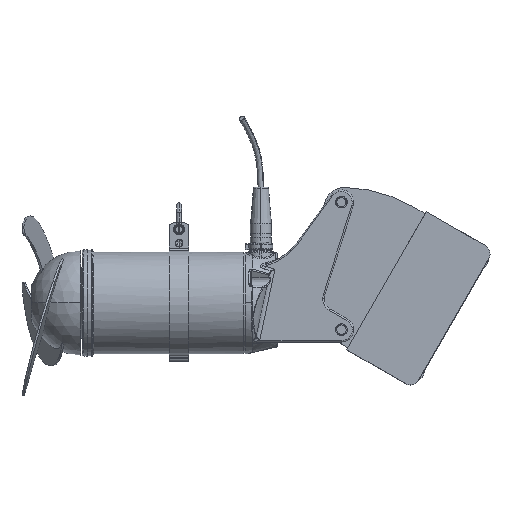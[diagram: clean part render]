
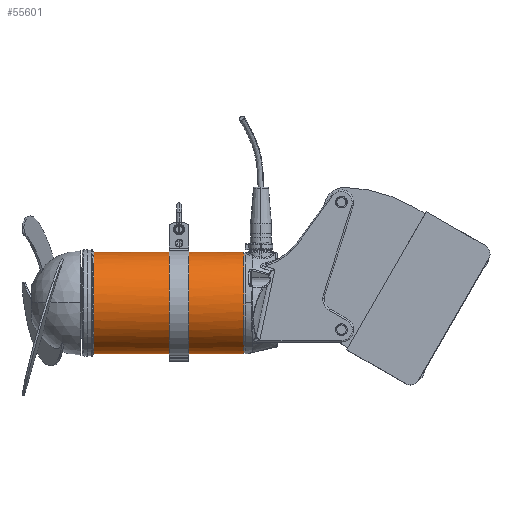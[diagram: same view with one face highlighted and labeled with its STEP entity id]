
A CAD part, top view. The second image highlights one B-rep face of the part: STEP entity #55601.
In plain terms, the highlighted cylindrical face has radius 103.811 mm (diameter 207.621 mm), a partial arc.
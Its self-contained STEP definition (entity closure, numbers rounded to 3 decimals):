
#352 = EDGE_CURVE ( 'NONE', #13994, #51848, #18313, .T. ) ;
#1465 = EDGE_CURVE ( 'NONE', #20984, #51848, #32453, .T. ) ;
#3731 = ORIENTED_EDGE ( 'NONE', *, *, #352, .T. ) ;
#3965 = CARTESIAN_POINT ( 'NONE',  ( 153.043, -102.743, 14.847 ) ) ;
#5216 = EDGE_LOOP ( 'NONE', ( #52769, #5641, #16099, #21042 ) ) ;
#5449 = VECTOR ( 'NONE', #10414, 1000. ) ;
#5641 = ORIENTED_EDGE ( 'NONE', *, *, #51810, .T. ) ;
#6004 = CARTESIAN_POINT ( 'NONE',  ( -0.757, -103.811, 0. ) ) ;
#9189 = CIRCLE ( 'NONE', #10630, 103.811 ) ;
#9437 = CIRCLE ( 'NONE', #23037, 103.811 ) ;
#9604 = CARTESIAN_POINT ( 'NONE',  ( 193.043, 0., 0. ) ) ;
#10414 = DIRECTION ( 'NONE',  ( -1., 0., 0. ) ) ;
#10630 = AXIS2_PLACEMENT_3D ( 'NONE', #18959, #49425, #23299 ) ;
#10656 = CARTESIAN_POINT ( 'NONE',  ( 193.043, 103.543, 7.445 ) ) ;
#13877 = DIRECTION ( 'NONE',  ( 0., 0., -1. ) ) ;
#13994 = VERTEX_POINT ( 'NONE', #32807 ) ;
#14392 = CARTESIAN_POINT ( 'NONE',  ( 21.609, -103.811, 0. ) ) ;
#16032 = VECTOR ( 'NONE', #40477, 1000. ) ;
#16099 = ORIENTED_EDGE ( 'NONE', *, *, #53473, .F. ) ;
#16620 = CARTESIAN_POINT ( 'NONE',  ( 21.609, 0., 0. ) ) ;
#16689 = FACE_OUTER_BOUND ( 'NONE', #38545, .T. ) ;
#16839 = CARTESIAN_POINT ( 'NONE',  ( 153.043, 103.543, 7.445 ) ) ;
#16979 = VERTEX_POINT ( 'NONE', #16839 ) ;
#18146 = LINE ( 'NONE', #40229, #5449 ) ;
#18313 = CIRCLE ( 'NONE', #37706, 103.81 ) ;
#18410 = VERTEX_POINT ( 'NONE', #6004 ) ;
#18436 = VERTEX_POINT ( 'NONE', #10656 ) ;
#18488 = VERTEX_POINT ( 'NONE', #27899 ) ;
#18608 = DIRECTION ( 'NONE',  ( -1., 0., 0. ) ) ;
#18959 = CARTESIAN_POINT ( 'NONE',  ( 153.043, 0., 0. ) ) ;
#20984 = VERTEX_POINT ( 'NONE', #36822 ) ;
#21042 = ORIENTED_EDGE ( 'NONE', *, *, #54226, .T. ) ;
#21435 = CYLINDRICAL_SURFACE ( 'NONE', #50102, 103.811 ) ;
#23037 = AXIS2_PLACEMENT_3D ( 'NONE', #44740, #18608, #49052 ) ;
#23299 = DIRECTION ( 'NONE',  ( 0., 0., -1. ) ) ;
#27899 = CARTESIAN_POINT ( 'NONE',  ( 193.043, -102.743, 14.847 ) ) ;
#29147 = ORIENTED_EDGE ( 'NONE', *, *, #1465, .F. ) ;
#32016 = VECTOR ( 'NONE', #54432, 1000. ) ;
#32453 = LINE ( 'NONE', #51636, #32016 ) ;
#32807 = CARTESIAN_POINT ( 'NONE',  ( 304.543, -103.81, 0. ) ) ;
#33367 = VERTEX_POINT ( 'NONE', #3965 ) ;
#33912 = DIRECTION ( 'NONE',  ( 1., 0., 0. ) ) ;
#34119 = DIRECTION ( 'NONE',  ( 0., 1., 0. ) ) ;
#34190 = VECTOR ( 'NONE', #41696, 1000. ) ;
#36822 = CARTESIAN_POINT ( 'NONE',  ( -0.757, 103.811, 0. ) ) ;
#37706 = AXIS2_PLACEMENT_3D ( 'NONE', #43332, #43451, #43461 ) ;
#38545 = EDGE_LOOP ( 'NONE', ( #53869, #39741, #3731, #29147 ) ) ;
#39741 = ORIENTED_EDGE ( 'NONE', *, *, #55117, .T. ) ;
#39913 = DIRECTION ( 'NONE',  ( -1., 0., 0. ) ) ;
#40229 = CARTESIAN_POINT ( 'NONE',  ( 173.043, -102.743, 14.847 ) ) ;
#40477 = DIRECTION ( 'NONE',  ( 1., 0., 0. ) ) ;
#41696 = DIRECTION ( 'NONE',  ( 1., 0., 0. ) ) ;
#42268 = CARTESIAN_POINT ( 'NONE',  ( 304.543, 103.81, 0. ) ) ;
#43332 = CARTESIAN_POINT ( 'NONE',  ( 304.543, 0., 0. ) ) ;
#43451 = DIRECTION ( 'NONE',  ( -1., 0., 0. ) ) ;
#43461 = DIRECTION ( 'NONE',  ( 0., 0., 1. ) ) ;
#44740 = CARTESIAN_POINT ( 'NONE',  ( -0.757, 0., 0. ) ) ;
#46269 = CARTESIAN_POINT ( 'NONE',  ( 173.043, 103.543, 7.445 ) ) ;
#48237 = AXIS2_PLACEMENT_3D ( 'NONE', #9604, #39913, #13877 ) ;
#48695 = FACE_BOUND ( 'NONE', #5216, .T. ) ;
#49052 = DIRECTION ( 'NONE',  ( 0., 1., 0. ) ) ;
#49425 = DIRECTION ( 'NONE',  ( -1., 0., 0. ) ) ;
#50102 = AXIS2_PLACEMENT_3D ( 'NONE', #16620, #33912, #34119 ) ;
#50736 = LINE ( 'NONE', #14392, #16032 ) ;
#51636 = CARTESIAN_POINT ( 'NONE',  ( 21.609, 103.811, 0. ) ) ;
#51718 = EDGE_CURVE ( 'NONE', #33367, #16979, #9189, .T. ) ;
#51810 = EDGE_CURVE ( 'NONE', #16979, #18436, #55746, .T. ) ;
#51848 = VERTEX_POINT ( 'NONE', #42268 ) ;
#52205 = CIRCLE ( 'NONE', #48237, 103.811 ) ;
#52769 = ORIENTED_EDGE ( 'NONE', *, *, #51718, .T. ) ;
#53473 = EDGE_CURVE ( 'NONE', #18488, #18436, #52205, .T. ) ;
#53869 = ORIENTED_EDGE ( 'NONE', *, *, #54771, .F. ) ;
#54226 = EDGE_CURVE ( 'NONE', #18488, #33367, #18146, .T. ) ;
#54432 = DIRECTION ( 'NONE',  ( 1., 0., 0. ) ) ;
#54771 = EDGE_CURVE ( 'NONE', #18410, #20984, #9437, .T. ) ;
#55117 = EDGE_CURVE ( 'NONE', #18410, #13994, #50736, .T. ) ;
#55601 = ADVANCED_FACE ( 'NONE', ( #48695, #16689 ), #21435, .T. ) ;
#55746 = LINE ( 'NONE', #46269, #34190 ) ;
